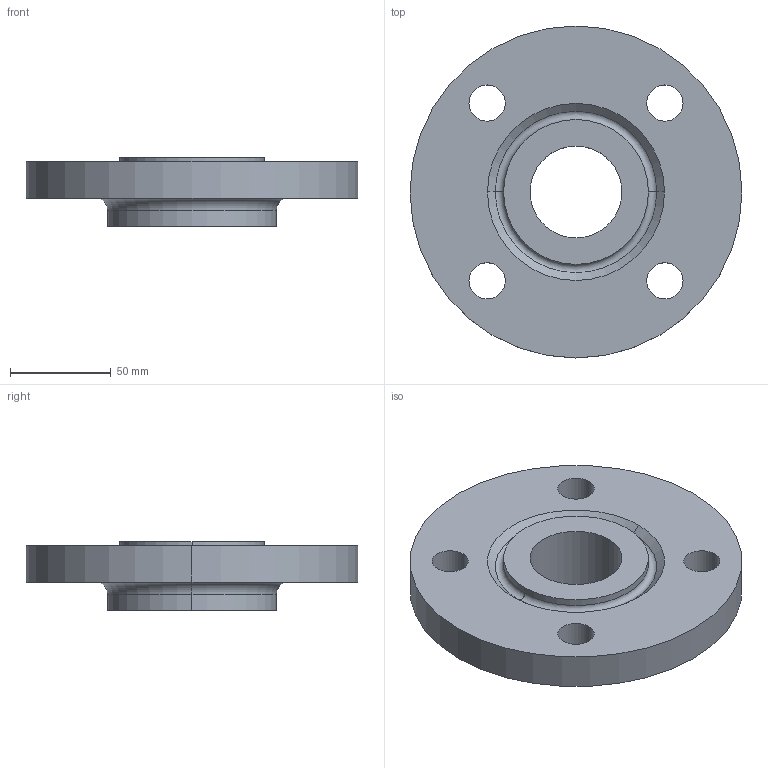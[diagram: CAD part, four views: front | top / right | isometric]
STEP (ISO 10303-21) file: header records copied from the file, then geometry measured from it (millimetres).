
FILE_DESCRIPTION (( 'STEP AP214' ), '1' );
FILE_NAME ('PN40 DN50 Type 13 - Type H Face.STEP', '2018-12-30T04:29:22', ( '' ), ( '' ), 'SwSTEP 2.0', 'SolidWorks 2019', '' );
FILE_SCHEMA (( 'AUTOMOTIVE_DESIGN' ));
Length unit declared in the file: millimetre
Products named in the file (1): PN40 DN50 Type 13 - Type H Face
Bounding box: 165 x 165 x 34 mm (x, y, z)
Volume: 393421.9 mm3; surface area: 60255.6 mm2
Topology: 1 solids, 1 shells, 26 faces, 60 edges, 38 vertices
Faces by surface type: cylinder 16, torus 4, plane 4, cone 2
Entity records: 812 total; most frequent: DIRECTION 156, CARTESIAN_POINT 125, ORIENTED_EDGE 120, AXIS2_PLACEMENT_3D 69, EDGE_CURVE 60, CIRCLE 42, VERTEX_POINT 38, EDGE_LOOP 38
